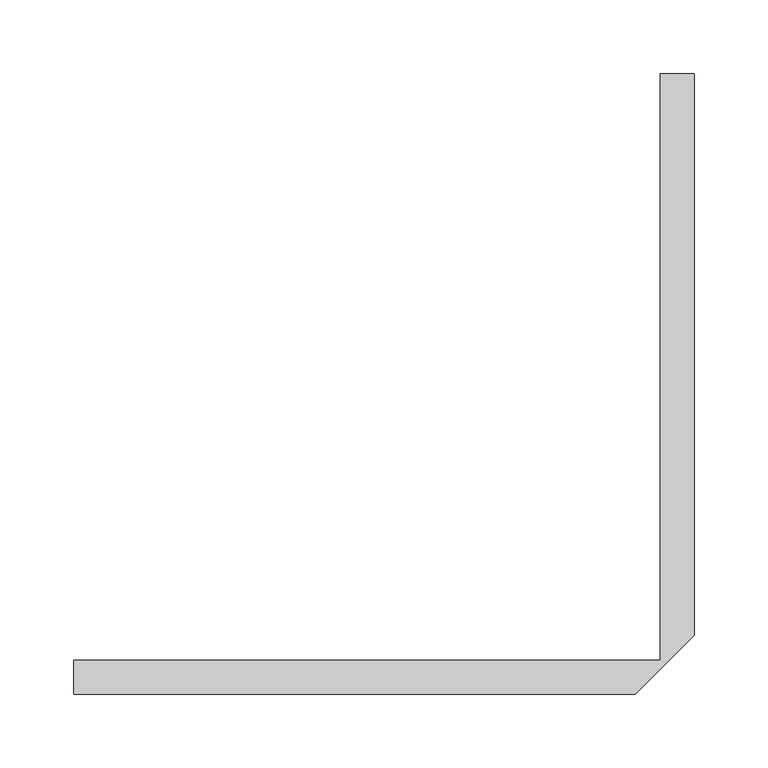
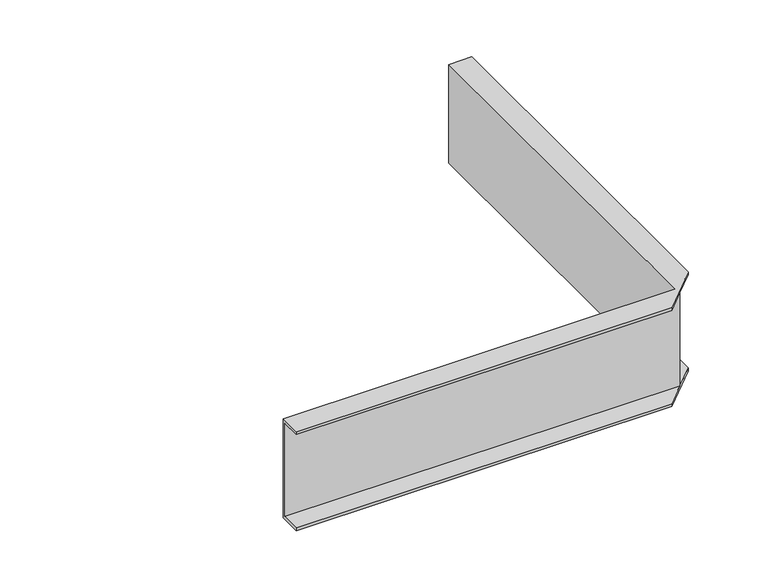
"""IFC4 building model written with IfcOpenShell, lengths in millimetres: cable carrier fitting geometry, BAKS_LDLS_CONN_Angle connector_LKSU : LKSUT_H100."""

from ifc_helpers import new_model, si_unit, origin, place, context, project, spatial, faceted_brep, source, transform, mapped, element, save


def cable_carrier_fitting_132c6996(model_context):
    return source(origin(), model_context, "Body", "Brep", [
        faceted_brep([(-20.0, -20.0, 53.0), (20.0, 20.0, 53.0), (20.0, 400.0, 53.0), (-3.0, 400.0, 53.0), (-3.0, 3.0, 53.0), (-400.0, 3.0, 53.0), (-400.0, -20.0, 53.0), (-400.0, -20.0, 50.0), (-400.0, 0.0, 50.0), (0.0, 0.0, 50.0), (-20.0, -20.0, 50.0), (-400.0, 3.0, -53.0), (-400.0, -20.0, -53.0), (-400.0, -20.0, -50.0), (-400.0, 0.0, -50.0), (20.0, 20.0, 50.0), (20.0, 400.0, 50.0), (0.0, 400.0, 50.0), (0.0, 400.0, -50.0), (20.0, 400.0, -50.0), (20.0, 400.0, -53.0), (-3.0, 400.0, -53.0), (-3.0, 3.0, -53.0), (20.0, 20.0, -53.0), (-20.0, -20.0, -53.0), (0.0, 0.0, -50.0), (-20.0, -20.0, -50.0), (20.0, 20.0, -50.0)], [[[0, 1, 2, 3, 4, 5, 6]], [[7, 8, 9, 10]], [[7, 6, 5, 11, 12, 13, 14, 8]], [[9, 15, 1, 0, 10]], [[6, 7, 10, 0]], [[3, 2, 16, 17, 18, 19, 20, 21]], [[21, 22, 4, 3]], [[20, 23, 24, 12, 11, 22, 21]], [[25, 18, 17, 9]], [[22, 11, 5, 4]], [[8, 14, 25, 9]], [[26, 25, 14, 13]], [[13, 12, 24, 26]], [[26, 24, 23, 27, 25]], [[16, 15, 9, 17]], [[1, 15, 16, 2]], [[27, 19, 18, 25]], [[27, 23, 20, 19]]]),
    ])


if __name__ == "__main__":
    model = new_model("IFC4")
    model_context = context("Model", 3, world=origin())
    ifc_project = project(units=[si_unit("LENGTHUNIT", "METRE", prefix="MILLI")], contexts=[model_context])
    site = spatial("IfcSite", under=ifc_project)
    building = spatial("IfcBuilding", under=site)
    placement = place(None, origin())
    cable_carrier_fitting_shape = cable_carrier_fitting_132c6996(model_context)
    element("IfcCableCarrierFitting", 1, ObjectType="BAKS_LDLS_CONN_Angle connector_LKSU : LKSUT_H100", at=placement, inside=building, context=model_context, shape_type="MappedRepresentation", body=[
        mapped(cable_carrier_fitting_shape, transform((0.0, 0.0, 0.0), x_axis=(1.0, 0.0, 0.0), y_axis=(0.0, 1.0, 0.0), z_axis=(0.0, 0.0, 1.0))),
    ])
    save(model, "model.ifc")
